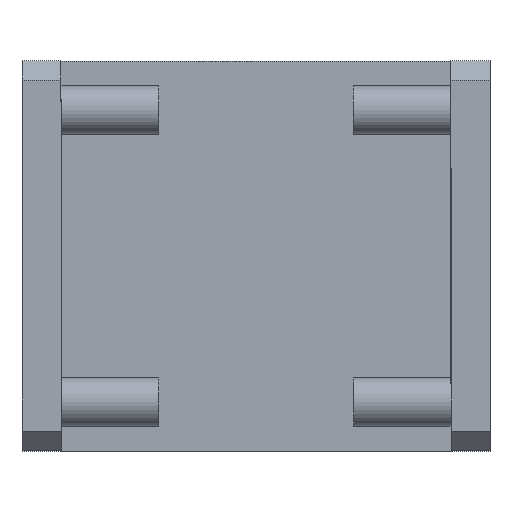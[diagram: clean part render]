
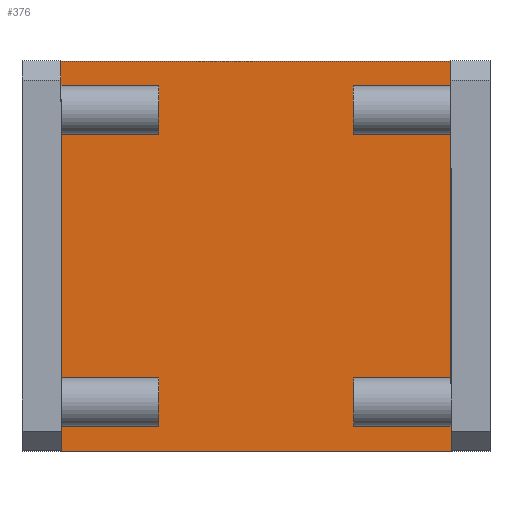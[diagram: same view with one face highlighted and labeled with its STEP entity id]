
A CAD part, top view. The second image highlights one B-rep face of the part: STEP entity #376.
In plain terms, the highlighted planar face has unit normal (0, 0, 1).
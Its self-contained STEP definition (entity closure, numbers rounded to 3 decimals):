
#29 = VERTEX_POINT ( 'NONE', #211 ) ;
#43 = VERTEX_POINT ( 'NONE', #394 ) ;
#51 = EDGE_CURVE ( 'NONE', #43, #58, #409, .T. ) ;
#58 = VERTEX_POINT ( 'NONE', #469 ) ;
#211 = CARTESIAN_POINT ( 'NONE',  ( -44., 0., 20. ) ) ;
#220 = VERTEX_POINT ( 'NONE', #647 ) ;
#239 = EDGE_CURVE ( 'NONE', #29, #220, #696, .T. ) ;
#376 = ADVANCED_FACE ( 'NONE', ( #842 ), #841, .T. ) ;
#377 = EDGE_LOOP ( 'NONE', ( #378, #380, #381, #383 ) ) ;
#378 = ORIENTED_EDGE ( 'NONE', *, *, #379, .T. ) ;
#379 = EDGE_CURVE ( 'NONE', #43, #220, #836, .T. ) ;
#380 = ORIENTED_EDGE ( 'NONE', *, *, #239, .F. ) ;
#381 = ORIENTED_EDGE ( 'NONE', *, *, #382, .T. ) ;
#382 = EDGE_CURVE ( 'NONE', #29, #58, #887, .T. ) ;
#383 = ORIENTED_EDGE ( 'NONE', *, *, #51, .F. ) ;
#394 = CARTESIAN_POINT ( 'NONE',  ( -4., 40., 20. ) ) ;
#402 = DIRECTION ( 'NONE',  ( 0., -1., 0. ) ) ;
#403 = VECTOR ( 'NONE', #402, 1000. ) ;
#404 = CARTESIAN_POINT ( 'NONE',  ( -4., 40., 20. ) ) ;
#409 = LINE ( 'NONE', #404, #403 ) ;
#469 = CARTESIAN_POINT ( 'NONE',  ( -4., 0., 20. ) ) ;
#647 = CARTESIAN_POINT ( 'NONE',  ( -44., 40., 20. ) ) ;
#693 = DIRECTION ( 'NONE',  ( 0., 1., 0. ) ) ;
#694 = VECTOR ( 'NONE', #693, 1000. ) ;
#695 = CARTESIAN_POINT ( 'NONE',  ( -44., 40., 20. ) ) ;
#696 = LINE ( 'NONE', #695, #694 ) ;
#833 = DIRECTION ( 'NONE',  ( -1., 0., 0. ) ) ;
#834 = VECTOR ( 'NONE', #833, 1000. ) ;
#835 = CARTESIAN_POINT ( 'NONE',  ( 0., 40., 20. ) ) ;
#836 = LINE ( 'NONE', #835, #834 ) ;
#837 = DIRECTION ( 'NONE',  ( 1., 0., 0. ) ) ;
#838 = DIRECTION ( 'NONE',  ( 0., 0., 1. ) ) ;
#839 = CARTESIAN_POINT ( 'NONE',  ( 0., 0., 20. ) ) ;
#840 = AXIS2_PLACEMENT_3D ( 'NONE', #839, #838, #837 ) ;
#841 = PLANE ( 'NONE',  #840 ) ;
#842 = FACE_OUTER_BOUND ( 'NONE', #377, .T. ) ;
#884 = DIRECTION ( 'NONE',  ( 1., 0., 0. ) ) ;
#885 = VECTOR ( 'NONE', #884, 1000. ) ;
#886 = CARTESIAN_POINT ( 'NONE',  ( 0., 0., 20. ) ) ;
#887 = LINE ( 'NONE', #886, #885 ) ;
